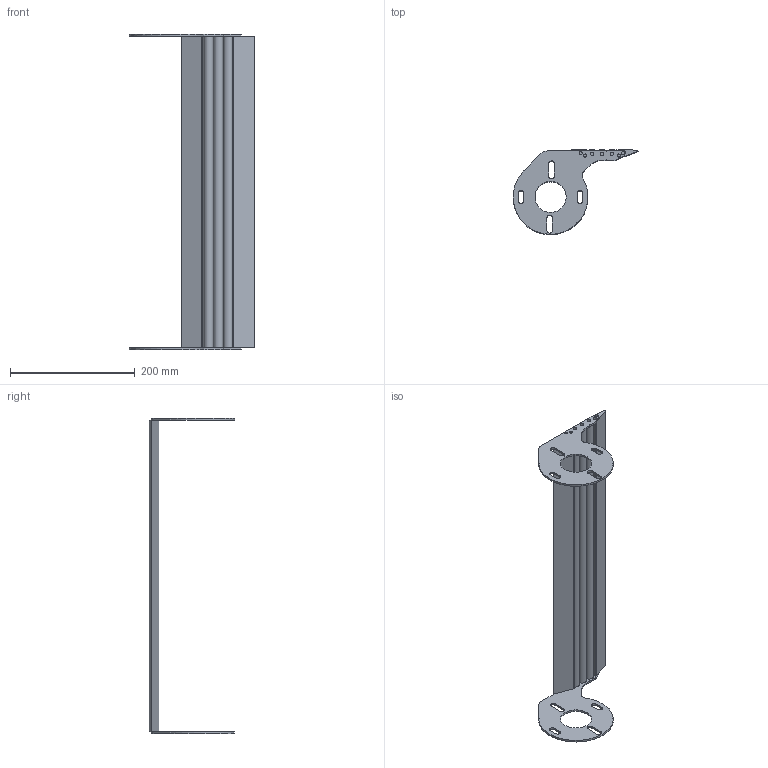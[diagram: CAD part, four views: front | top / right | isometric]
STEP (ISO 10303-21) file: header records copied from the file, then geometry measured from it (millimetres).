
FILE_DESCRIPTION (( 'STEP AP214' ), '1' );
FILE_NAME ('F2 1800 TG2M.step', '2017-04-05T07:32:08', ( '' ), ( '' ), 'SwSTEP 2.0', 'SolidWorks 2015', '' );
FILE_SCHEMA (( 'AUTOMOTIVE_DESIGN' ));
Length unit declared in the file: millimetre
Products named in the file (1): F2 1800 TG2M
Bounding box: 201.6 x 136.54 x 506 mm (x, y, z)
Volume: 606482 mm3; surface area: 206676.5 mm2
Topology: 1 solids, 1 shells, 157 faces, 427 edges, 278 vertices
Faces by surface type: plane 84, cylinder 73
Entity records: 5509 total; most frequent: DIRECTION 901, CARTESIAN_POINT 863, ORIENTED_EDGE 854, EDGE_CURVE 427, AXIS2_PLACEMENT_3D 316, VERTEX_POINT 278, LINE 269, VECTOR 269
